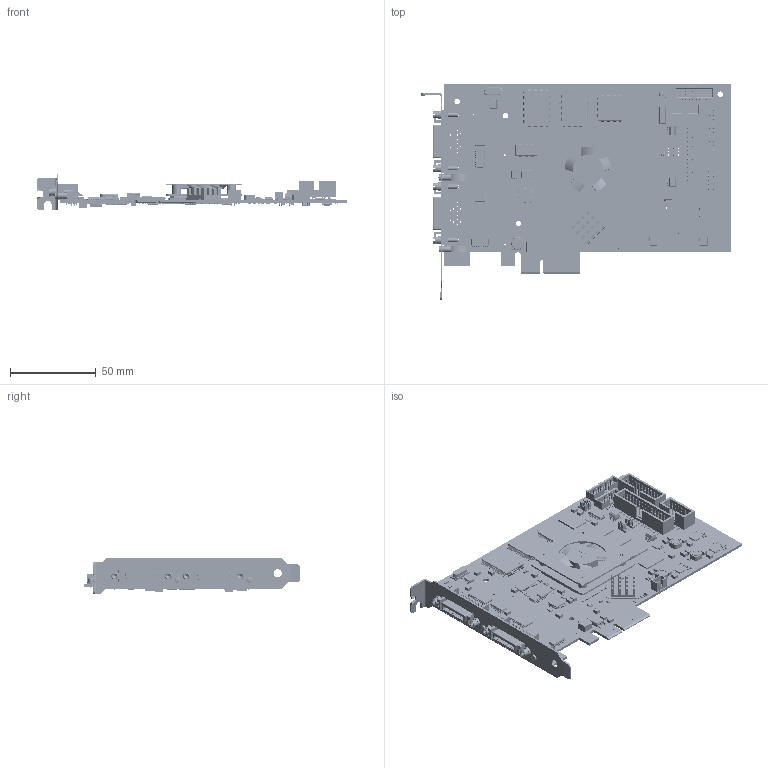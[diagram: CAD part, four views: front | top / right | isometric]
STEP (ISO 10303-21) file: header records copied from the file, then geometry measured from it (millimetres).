
FILE_DESCRIPTION( ( 'Unknown' ), '1' );
FILE_NAME( 'Q:/2003/Product3DModels/mm-ap06c22-0020-0401.stp', 'Unknown', ( 'Unknown' ), ( 'Unknown' ), 'PSStep 17.0.49', 'Unknown', ' ' );
FILE_SCHEMA( ( 'AUTOMOTIVE_DESIGN { 1 0 10303 214 1 1 1 1 }' ) );
Length unit declared in the file: millimetre
Products named in the file (57): Assem1; L3-555; L3-398; L3-452; L3-1; L3-72; L3-391; L3-440; L3-127; L3-595; L3-92; L3-68; L3-145; L3-140; L3-409; L3-564; L3-125; L3-522; L3-54; L3-37; L3-146; L3-3; L3-5; L3-396; L3-343; L3-119; L3-401; L3-150; L3-55; L3-95; L3-465; L3-345; L3-344; L3-519; L3-512; L3-513; L3-228; L3-121; L3-75; L3-147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
Assembly tree (559 placements, depth 2):
  Assem1
    L3-555
    L3-398  x2
    L3-452  x6
    L3-1  x87
    L3-72  x26
    L3-391  x270
    L3-440  x23
    L3-127  x5
    L3-595
    L3-92  x3
    L3-68
    L3-145  x3
    L3-140  x2
    L3-409
    L3-564
    L3-125  x6
    L3-522  x30
    L3-54  x2
    L3-37
    L3-146
    L3-3
    L3-5  x3
    L3-396  x3
    L3-343  x2
    L3-119
    L3-401  x2
    L3-150  x6
    L3-55
    L3-95  x2
    L3-465  x2
    L3-345  x3
    L3-344  x4
    L3-519  x4
    L3-512  x3
    L3-513  x3
    L3-228  x4
    L3-121
    L3-75
    L3-147  x9
    L3-77
    L3-76
    L3-556  x2
    L3-698
    L3-554  x2
    L3-438  x6
    L3-594
    L3-593
    L3-14
    L3-397  x2
    L3-355  x2
    G-910-297A
    G-493-243U  x4
    G-491-339L  x4
    M-754-974F
    G-895-801A
    mm-ap06c22-0020-0401
Bounding box: 181.13 x 126.38 x 21.48 mm (x, y, z)
Surface area: 82359.6 mm2 (no closed solid volume)
Topology: 0 solids, 27214 shells, 27214 faces, 146678 edges, 146337 vertices
Faces by surface type: plane 22513, cylinder 4654, cone 32, torus 13, sphere 2
Full cylindrical faces by diameter (mm): 0.5 x13, 0.548 x1, 0.7 x7, 0.75 x1, 0.8 x78, 1 x71, 1.549 x81, 1.803 x6, 1.9 x4, 1.93 x4, 2.013 x4, 2.156 x4, 2.5 x4, 2.7 x4, 2.8 x4, 3.2 x7, 3.58 x2, 3.8 x6, 3.9 x4, 4.1 x4, 4.5 x3, 4.75 x1, 4.8 x4, 5.2 x3, 5.3 x4, 7.3 x1, 18 x1, 28 x1
Entity records: 595212 total; most frequent: CARTESIAN_POINT 116273, DIRECTION 81838, VERTEX_POINT 52718, ORIENTED_EDGE 52716, EDGE_CURVE 52716, LINE 44624, VECTOR 44624, AXIS2_PLACEMENT_3D 18607
